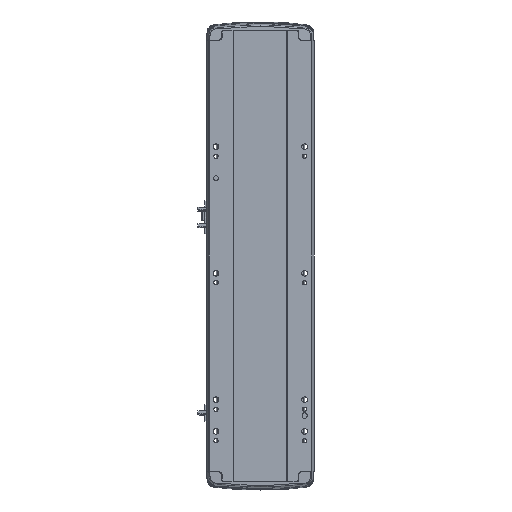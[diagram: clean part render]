
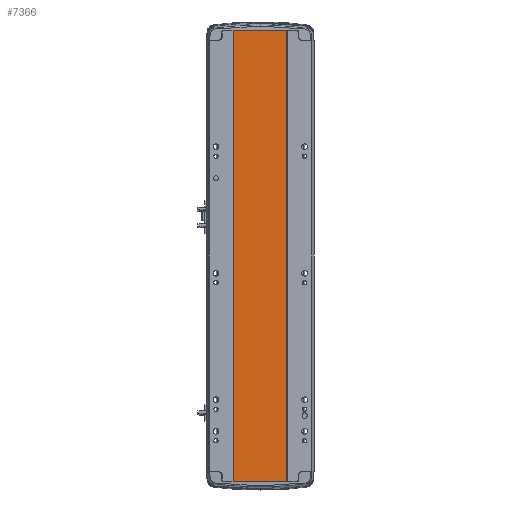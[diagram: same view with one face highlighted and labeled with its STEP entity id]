
A CAD part, front view. The second image highlights one B-rep face of the part: STEP entity #7366.
In plain terms, the highlighted planar face has unit normal (0, -1, 0).
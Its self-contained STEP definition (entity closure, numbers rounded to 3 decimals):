
#779 = EDGE_CURVE ( 'NONE', #25453, #17626, #10734, .T. ) ;
#2211 = ORIENTED_EDGE ( 'NONE', *, *, #13491, .F. ) ;
#2513 = VECTOR ( 'NONE', #25999, 1000. ) ;
#4666 = VECTOR ( 'NONE', #7538, 1000. ) ;
#7366 = ADVANCED_FACE ( 'NONE', ( #15151 ), #7707, .F. ) ;
#7537 = CARTESIAN_POINT ( 'NONE',  ( 41.793, 0.998, 0. ) ) ;
#7538 = DIRECTION ( 'NONE',  ( 1., 0., 0. ) ) ;
#7707 = PLANE ( 'NONE',  #33574 ) ;
#10734 = LINE ( 'NONE', #35324, #2513 ) ;
#12439 = ORIENTED_EDGE ( 'NONE', *, *, #13185, .F. ) ;
#13185 = EDGE_CURVE ( 'NONE', #14258, #37239, #39366, .T. ) ;
#13491 = EDGE_CURVE ( 'NONE', #25453, #14258, #29204, .T. ) ;
#14258 = VERTEX_POINT ( 'NONE', #18177 ) ;
#14796 = VECTOR ( 'NONE', #20955, 1000. ) ;
#15151 = FACE_OUTER_BOUND ( 'NONE', #33756, .T. ) ;
#15204 = LINE ( 'NONE', #27443, #19495 ) ;
#17009 = CARTESIAN_POINT ( 'NONE',  ( 0., 0.999, 714.5 ) ) ;
#17626 = VERTEX_POINT ( 'NONE', #24919 ) ;
#18177 = CARTESIAN_POINT ( 'NONE',  ( 41.793, 0.998, 714.5 ) ) ;
#19495 = VECTOR ( 'NONE', #30544, 1000. ) ;
#20087 = DIRECTION ( 'NONE',  ( -1., 0., 0. ) ) ;
#20955 = DIRECTION ( 'NONE',  ( 0., 0., -1. ) ) ;
#23333 = EDGE_CURVE ( 'NONE', #17626, #37239, #15204, .T. ) ;
#24919 = CARTESIAN_POINT ( 'NONE',  ( -41.791, 1., 0. ) ) ;
#25453 = VERTEX_POINT ( 'NONE', #28639 ) ;
#25501 = ORIENTED_EDGE ( 'NONE', *, *, #23333, .T. ) ;
#25999 = DIRECTION ( 'NONE',  ( 0., 0., -1. ) ) ;
#27443 = CARTESIAN_POINT ( 'NONE',  ( 0., 0.999, 0. ) ) ;
#28639 = CARTESIAN_POINT ( 'NONE',  ( -41.791, 1., 714.5 ) ) ;
#29204 = LINE ( 'NONE', #31633, #4666 ) ;
#30544 = DIRECTION ( 'NONE',  ( 1., 0., 0. ) ) ;
#31633 = CARTESIAN_POINT ( 'NONE',  ( 0., 0.999, 714.5 ) ) ;
#33574 = AXIS2_PLACEMENT_3D ( 'NONE', #17009, #38530, #20087 ) ;
#33756 = EDGE_LOOP ( 'NONE', ( #25501, #12439, #2211, #36391 ) ) ;
#35324 = CARTESIAN_POINT ( 'NONE',  ( -41.791, 1., 714.5 ) ) ;
#36391 = ORIENTED_EDGE ( 'NONE', *, *, #779, .T. ) ;
#37239 = VERTEX_POINT ( 'NONE', #7537 ) ;
#38530 = DIRECTION ( 'NONE',  ( 0., 1., 0. ) ) ;
#39274 = CARTESIAN_POINT ( 'NONE',  ( 41.793, 0.998, 714.5 ) ) ;
#39366 = LINE ( 'NONE', #39274, #14796 ) ;
